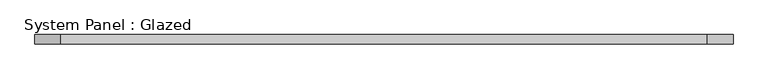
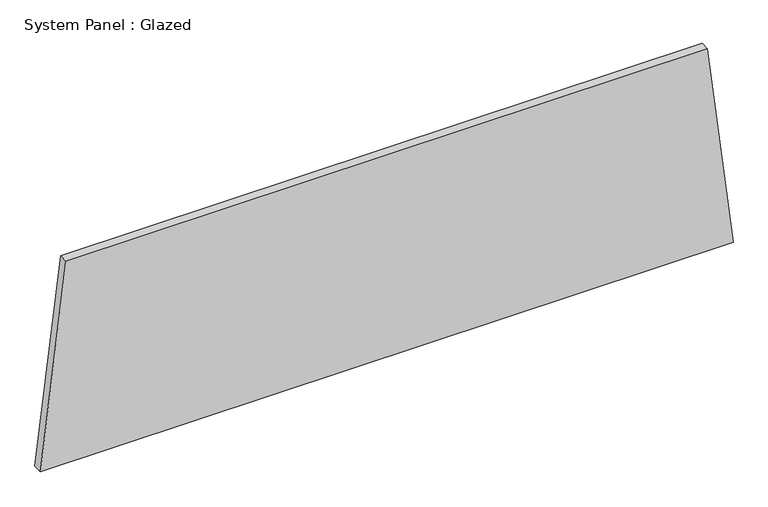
"""IFC4 building model written with IfcOpenShell, lengths in millimetres: plate geometry, System Panel : Glazed."""

from ifc_helpers import new_model, si_unit, frame, origin, place, context, project, spatial, polyline, outline, extrude, source, transform, mapped, element, save


def system_panel_glazed_de08f358(model_context):
    return source(origin(), model_context, "Body", "SweptSolid", [
        extrude(outline(polyline([(0.0, -940.9057788), (0.0, 940.9057788), (579.8510312, 871.2695002), (579.8510312, -871.2695002), (0.0, -940.9057788)])), frame((0.0, -44.45, 0.0), z_axis=(0.0, 1.0, 0.0), x_axis=(0.0, 0.0, 1.0)), (0.0, 0.0, 1.0), 25.4),
    ])


if __name__ == "__main__":
    model = new_model("IFC4")
    model_context = context("Model", 3, world=origin())
    ifc_project = project(units=[si_unit("LENGTHUNIT", "METRE", prefix="MILLI")], contexts=[model_context])
    site = spatial("IfcSite", under=ifc_project)
    building = spatial("IfcBuilding", under=site)
    placement = place(None, origin())
    system_panel_glazed_shape = system_panel_glazed_de08f358(model_context)
    element("IfcPlate", 1, ObjectType="System Panel : Glazed", at=placement, inside=building, context=model_context, shape_type="MappedRepresentation", body=[
        mapped(system_panel_glazed_shape, transform((0.0, 0.0, 0.0), x_axis=(1.0, 0.0, 0.0), y_axis=(0.0, 1.0, 0.0), z_axis=(0.0, 0.0, 1.0))),
    ])
    save(model, "model.ifc")
